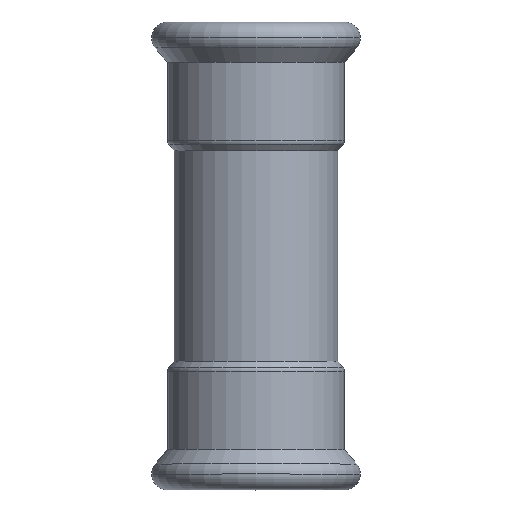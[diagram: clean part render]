
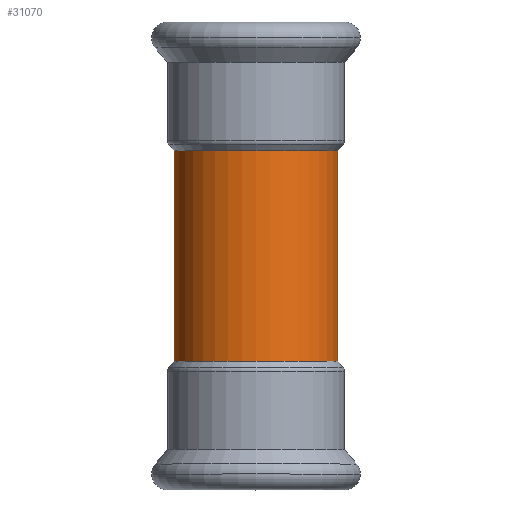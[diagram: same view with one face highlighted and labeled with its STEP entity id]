
A CAD part, top view. The second image highlights one B-rep face of the part: STEP entity #31070.
In plain terms, the highlighted cylindrical face has radius 21 mm (diameter 42 mm), a partial arc.
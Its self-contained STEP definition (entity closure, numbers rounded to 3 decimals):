
#7960=CARTESIAN_POINT('',(-96.193,70.409,
27.));
#7970=DIRECTION('',(0.,0.,1.));
#7980=DIRECTION('',(1.,0.,0.));
#7990=AXIS2_PLACEMENT_3D('',#7960,#7970,#7980);
#8000=CYLINDRICAL_SURFACE('',#7990,21.);
#30710=CARTESIAN_POINT('',(-75.193,70.409,
27.));
#30720=DIRECTION('',(0.,0.,1.));
#30730=VECTOR('',#30720,1.);
#30740=LINE('',#30710,#30730);
#30750=CARTESIAN_POINT('',(-75.193,70.409,
-27.));
#30760=VERTEX_POINT('',#30750);
#30770=CARTESIAN_POINT('',(-75.193,70.409,
27.));
#30780=VERTEX_POINT('',#30770);
#30790=EDGE_CURVE('',#30760,#30780,#30740,.T.);
#30800=ORIENTED_EDGE('',*,*,#30790,.F.);
#30810=CARTESIAN_POINT('',(-96.193,70.409,
27.));
#30820=DIRECTION('',(0.,0.,1.));
#30830=DIRECTION('',(1.,0.,0.));
#30840=AXIS2_PLACEMENT_3D('',#30810,#30820,#30830);
#30850=CIRCLE('',#30840,21.);
#30860=CARTESIAN_POINT('',(-117.193,70.409,
27.));
#30870=VERTEX_POINT('',#30860);
#30880=EDGE_CURVE('',#30780,#30870,#30850,.T.);
#30890=ORIENTED_EDGE('',*,*,#30880,.F.);
#30900=CARTESIAN_POINT('',(-117.193,70.409,
27.));
#30910=DIRECTION('',(0.,0.,1.));
#30920=VECTOR('',#30910,1.);
#30930=LINE('',#30900,#30920);
#30940=CARTESIAN_POINT('',(-117.193,70.409,
-27.));
#30950=VERTEX_POINT('',#30940);
#30960=EDGE_CURVE('',#30950,#30870,#30930,.T.);
#30970=ORIENTED_EDGE('',*,*,#30960,.T.);
#30980=CARTESIAN_POINT('',(-96.193,70.409,
-27.));
#30990=DIRECTION('',(0.,0.,1.));
#31000=DIRECTION('',(1.,0.,0.));
#31010=AXIS2_PLACEMENT_3D('',#30980,#30990,#31000);
#31020=CIRCLE('',#31010,21.);
#31030=EDGE_CURVE('',#30760,#30950,#31020,.T.);
#31040=ORIENTED_EDGE('',*,*,#31030,.T.);
#31050=EDGE_LOOP('',(#31040,#30970,#30890,#30800));
#31060=FACE_OUTER_BOUND('',#31050,.T.);
#31070=ADVANCED_FACE('',(#31060),#8000,.T.);
